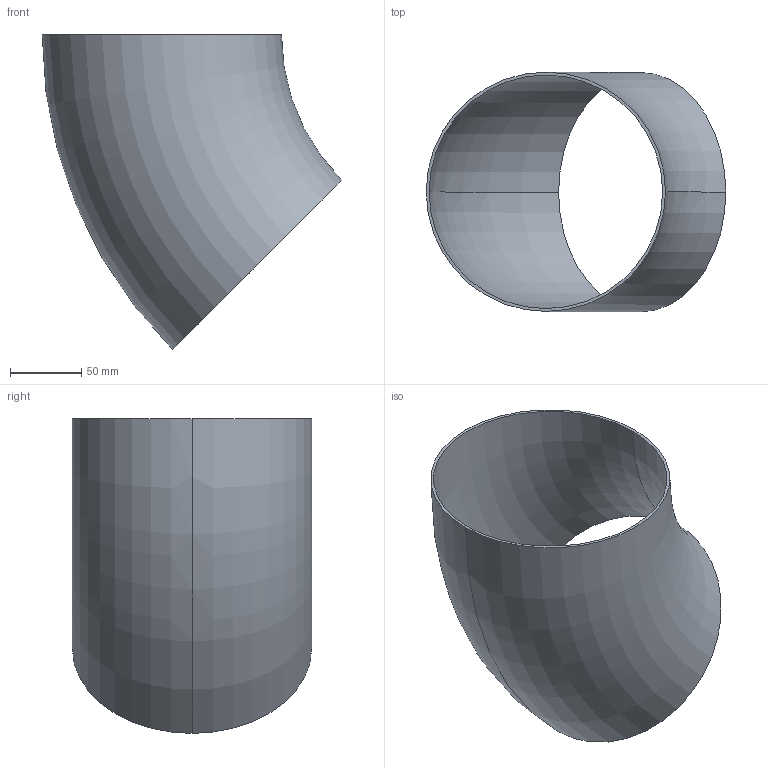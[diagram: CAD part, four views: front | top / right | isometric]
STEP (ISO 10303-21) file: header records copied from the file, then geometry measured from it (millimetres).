
FILE_DESCRIPTION (( 'STEP AP203' ), '1' );
FILE_NAME ('3D_R1650_168.3x2_17351750.STEP', '2024-08-03T09:14:27', ( '' ), ( '' ), 'SwSTEP 2.0', 'SolidWorks 2024', '' );
FILE_SCHEMA (( 'CONFIG_CONTROL_DESIGN' ));
Length unit declared in the file: millimetre
Products named in the file (1): 3D_R1650_168.3x2_17351750
Bounding box: 210.73 x 168.3 x 221.43 mm (x, y, z)
Volume: 187930.6 mm3; surface area: 190020.4 mm2
Topology: 1 solids, 1 shells, 6 faces, 12 edges, 8 vertices
Faces by surface type: torus 4, plane 2
Entity records: 249 total; most frequent: DIRECTION 38, CARTESIAN_POINT 27, ORIENTED_EDGE 24, AXIS2_PLACEMENT_3D 19, EDGE_CURVE 12, CIRCLE 12, VERTEX_POINT 8, PERSON_AND_ORGANIZATION 8
